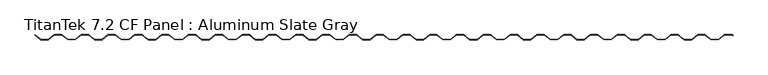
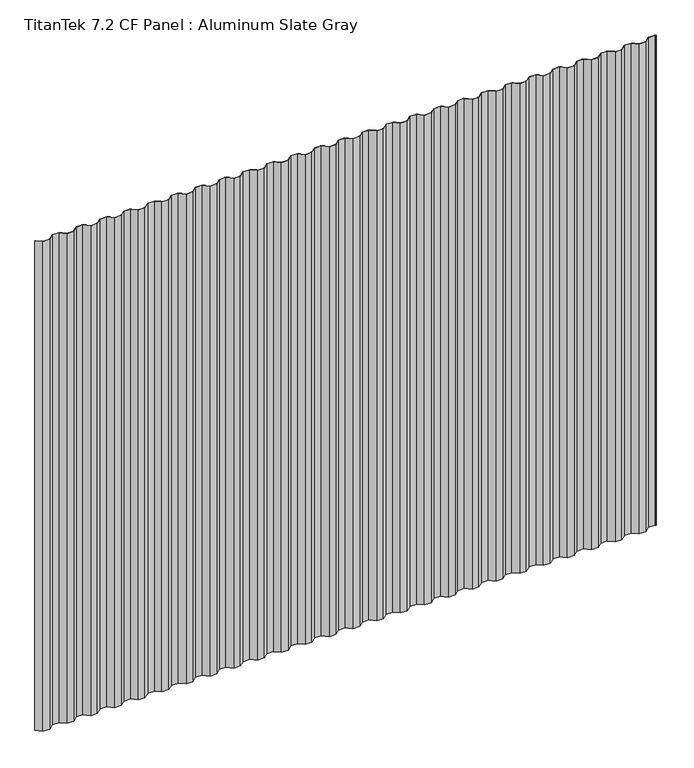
"""IFC4 building model written with IfcOpenShell, lengths in millimetres: proxy geometry, TitanTek 7.2 CF Panel : Aluminum Slate Gray."""

from ifc_helpers import new_model, si_unit, origin, origin_with_axes, place, context, project, spatial, polyline, outline, extrude, source, transform, mapped, element, save


def titantek_7_2_cf_panel_aluminum_slate_gray_eb07de06(model_context):
    return source(origin(), model_context, "Body", "SweptSolid", [
        extrude(outline(polyline([(4788.0708712, 0.0), (4795.5415294, -6.2686265), (4793.9979597, -6.2686265), (4787.7097445, -0.9921875), (4736.4377418, -0.9921875), (4696.363469, -34.9011875), (4642.4261562, -34.9011875), (4602.1884807, -0.9921875), (4552.1142446, -0.9921875), (4510.8673867, -35.893375), (4459.4597903, -35.893375), (4417.8661747, -0.9921875), (4419.4097445, -0.9921875), (4459.8209171, -34.9011875), (4510.5039406, -34.9011875), (4551.7507986, 0.0), (4602.5507986, 0.0), (4642.788474, -33.909), (4696.000023, -33.909), (4736.0742957, 0.0), (4788.0708712, 0.0)])), origin_with_axes(), (0.0, 0.0, 1.0), 4000.0),
        extrude(outline(polyline([(4419.7708712, 0.0), (4427.2415294, -6.2686265), (4425.6979597, -6.2686265), (4419.4097445, -0.9921875), (4368.1377418, -0.9921875), (4328.063469, -34.9011875), (4274.1261562, -34.9011875), (4233.8884807, -0.9921875), (4183.8142446, -0.9921875), (4142.5673867, -35.893375), (4091.1597903, -35.893375), (4049.5661747, -0.9921875), (4051.1097445, -0.9921875), (4091.5209171, -34.9011875), (4142.2039406, -34.9011875), (4183.4507986, 0.0), (4234.2507986, 0.0), (4274.488474, -33.909), (4327.700023, -33.909), (4367.7742957, 0.0), (4419.7708712, 0.0)])), origin_with_axes(), (0.0, 0.0, 1.0), 4000.0),
        extrude(outline(polyline([(4051.4708712, 0.0), (4058.9415294, -6.2686265), (4057.3979597, -6.2686265), (4051.1097445, -0.9921875), (3999.8377418, -0.9921875), (3959.763469, -34.9011875), (3905.8261562, -34.9011875), (3865.5884807, -0.9921875), (3815.5142446, -0.9921875), (3774.2673867, -35.893375), (3722.8597903, -35.893375), (3681.2661747, -0.9921875), (3682.8097445, -0.9921875), (3723.2209171, -34.9011875), (3773.9039406, -34.9011875), (3815.1507986, 0.0), (3865.9507986, 0.0), (3906.188474, -33.909), (3959.400023, -33.909), (3999.4742957, 0.0), (4051.4708712, 0.0)])), origin_with_axes(), (0.0, 0.0, 1.0), 4000.0),
        extrude(outline(polyline([(3683.1708712, 0.0), (3690.6415294, -6.2686265), (3689.0979597, -6.2686265), (3682.8097445, -0.9921875), (3631.5377418, -0.9921875), (3591.463469, -34.9011875), (3537.5261562, -34.9011875), (3497.2884807, -0.9921875), (3447.2142446, -0.9921875), (3405.9673867, -35.893375), (3354.5597903, -35.893375), (3312.9661747, -0.9921875), (3314.5097445, -0.9921875), (3354.9209171, -34.9011875), (3405.6039406, -34.9011875), (3446.8507986, 0.0), (3497.6507986, 0.0), (3537.888474, -33.909), (3591.100023, -33.909), (3631.1742957, 0.0), (3683.1708712, 0.0)])), origin_with_axes(), (0.0, 0.0, 1.0), 4000.0),
        extrude(outline(polyline([(3314.8708712, 0.0), (3322.3415294, -6.2686265), (3320.7979597, -6.2686265), (3314.5097445, -0.9921875), (3263.2377418, -0.9921875), (3223.163469, -34.9011875), (3169.2261562, -34.9011875), (3128.9884807, -0.9921875), (3078.9142446, -0.9921875), (3037.6673867, -35.893375), (2986.2597903, -35.893375), (2944.6661747, -0.9921875), (2946.2097445, -0.9921875), (2986.6209171, -34.9011875), (3037.3039406, -34.9011875), (3078.5507986, 0.0), (3129.3507986, 0.0), (3169.588474, -33.909), (3222.800023, -33.909), (3262.8742957, 0.0), (3314.8708712, 0.0)])), origin_with_axes(), (0.0, 0.0, 1.0), 4000.0),
        extrude(outline(polyline([(2946.5708712, 0.0), (2954.0415294, -6.2686265), (2952.4979597, -6.2686265), (2946.2097445, -0.9921875), (2894.9377418, -0.9921875), (2854.863469, -34.9011875), (2800.9261562, -34.9011875), (2760.6884807, -0.9921875), (2710.6142446, -0.9921875), (2669.3673867, -35.893375), (2617.9597903, -35.893375), (2576.3661747, -0.9921875), (2577.9097445, -0.9921875), (2618.3209171, -34.9011875), (2669.0039406, -34.9011875), (2710.2507986, 0.0), (2761.0507986, 0.0), (2801.288474, -33.909), (2854.500023, -33.909), (2894.5742957, 0.0), (2946.5708712, 0.0)])), origin_with_axes(), (0.0, 0.0, 1.0), 4000.0),
        extrude(outline(polyline([(2578.2708712, 0.0), (2585.7415294, -6.2686265), (2584.1979597, -6.2686265), (2577.9097445, -0.9921875), (2526.6377418, -0.9921875), (2486.563469, -34.9011875), (2432.6261562, -34.9011875), (2392.3884807, -0.9921875), (2342.3142446, -0.9921875), (2301.0673867, -35.893375), (2249.6597903, -35.893375), (2208.0661747, -0.9921875), (2209.6097445, -0.9921875), (2250.0209171, -34.9011875), (2300.7039406, -34.9011875), (2341.9507986, 0.0), (2392.7507986, 0.0), (2432.988474, -33.909), (2486.200023, -33.909), (2526.2742957, 0.0), (2578.2708712, 0.0)])), origin_with_axes(), (0.0, 0.0, 1.0), 4000.0),
        extrude(outline(polyline([(2209.9708712, 0.0), (2217.4415294, -6.2686265), (2215.8979597, -6.2686265), (2209.6097445, -0.9921875), (2158.3377418, -0.9921875), (2118.263469, -34.9011875), (2064.3261562, -34.9011875), (2024.0884807, -0.9921875), (1974.0142446, -0.9921875), (1932.7673867, -35.893375), (1881.3597903, -35.893375), (1839.7661747, -0.9921875), (1841.3097445, -0.9921875), (1881.7209171, -34.9011875), (1932.4039406, -34.9011875), (1973.6507986, 0.0), (2024.4507986, 0.0), (2064.688474, -33.909), (2117.900023, -33.909), (2157.9742957, 0.0), (2209.9708712, 0.0)])), origin_with_axes(), (0.0, 0.0, 1.0), 4000.0),
        extrude(outline(polyline([(1841.6708712, 0.0), (1849.1415294, -6.2686265), (1847.5979597, -6.2686265), (1841.3097445, -0.9921875), (1790.0377418, -0.9921875), (1749.963469, -34.9011875), (1696.0261562, -34.9011875), (1655.7884807, -0.9921875), (1605.7142446, -0.9921875), (1564.4673867, -35.893375), (1513.0597903, -35.893375), (1471.4661747, -0.9921875), (1473.0097445, -0.9921875), (1513.4209171, -34.9011875), (1564.1039406, -34.9011875), (1605.3507986, 0.0), (1656.1507986, 0.0), (1696.388474, -33.909), (1749.600023, -33.909), (1789.6742957, 0.0), (1841.6708712, 0.0)])), origin_with_axes(), (0.0, 0.0, 1.0), 4000.0),
        extrude(outline(polyline([(1473.3708712, 0.0), (1480.8415294, -6.2686265), (1479.2979597, -6.2686265), (1473.0097445, -0.9921875), (1421.7377418, -0.9921875), (1381.663469, -34.9011875), (1327.7261562, -34.9011875), (1287.4884807, -0.9921875), (1237.4142446, -0.9921875), (1196.1673867, -35.893375), (1144.7597903, -35.893375), (1103.1661747, -0.9921875), (1104.7097445, -0.9921875), (1145.1209171, -34.9011875), (1195.8039406, -34.9011875), (1237.0507986, 0.0), (1287.8507986, 0.0), (1328.088474, -33.909), (1381.300023, -33.909), (1421.3742957, 0.0), (1473.3708712, 0.0)])), origin_with_axes(), (0.0, 0.0, 1.0), 4000.0),
        extrude(outline(polyline([(1105.0708712, 0.0), (1112.5415294, -6.2686265), (1110.9979597, -6.2686265), (1104.7097445, -0.9921875), (1053.4377418, -0.9921875), (1013.363469, -34.9011875), (959.4261562, -34.9011875), (919.1884807, -0.9921875), (869.1142446, -0.9921875), (827.8673867, -35.893375), (776.4597903, -35.893375), (734.8661747, -0.9921875), (736.4097445, -0.9921875), (776.8209171, -34.9011875), (827.5039406, -34.9011875), (868.7507986, 0.0), (919.5507986, 0.0), (959.788474, -33.909), (1013.000023, -33.909), (1053.0742957, 0.0), (1105.0708712, 0.0)])), origin_with_axes(), (0.0, 0.0, 1.0), 4000.0),
        extrude(outline(polyline([(736.7708712, 0.0), (744.2415294, -6.2686265), (742.6979597, -6.2686265), (736.4097445, -0.9921875), (685.1377418, -0.9921875), (645.063469, -34.9011875), (591.1261562, -34.9011875), (550.8884807, -0.9921875), (500.8142446, -0.9921875), (459.5673867, -35.893375), (408.1597903, -35.893375), (366.5661747, -0.9921875), (368.1097445, -0.9921875), (408.5209171, -34.9011875), (459.2039406, -34.9011875), (500.4507986, 0.0), (551.2507986, 0.0), (591.488474, -33.909), (644.700023, -33.909), (684.7742957, 0.0), (736.7708712, 0.0)])), origin_with_axes(), (0.0, 0.0, 1.0), 4000.0),
        extrude(outline(polyline([(368.4708712, 0.0), (375.9415294, -6.2686265), (374.3979597, -6.2686265), (368.1097445, -0.9921875), (316.8377418, -0.9921875), (276.763469, -34.9011875), (222.8261562, -34.9011875), (182.5884807, -0.9921875), (132.5142446, -0.9921875), (91.2673867, -35.893375), (39.8597903, -35.893375), (-1.7338253, -0.9921875), (-0.1902555, -0.9921875), (40.2209171, -34.9011875), (90.9039406, -34.9011875), (132.1507986, 0.0), (182.9507986, 0.0), (223.188474, -33.909), (276.400023, -33.909), (316.4742957, 0.0), (368.4708712, 0.0)])), origin_with_axes(), (0.0, 0.0, 1.0), 4000.0),
    ])


if __name__ == "__main__":
    model = new_model("IFC4")
    model_context = context("Model", 3, world=origin())
    ifc_project = project(units=[si_unit("LENGTHUNIT", "METRE", prefix="MILLI")], contexts=[model_context])
    site = spatial("IfcSite", under=ifc_project)
    building = spatial("IfcBuilding", under=site)
    placement = place(None, origin())
    titantek_7_2_cf_panel_aluminum_slate_gray_shape = titantek_7_2_cf_panel_aluminum_slate_gray_eb07de06(model_context)
    element("IfcBuildingElementProxy", 1, Name="TitanTek 7.2 CF Panel : Aluminum Slate Gray", ObjectType="TitanTek 7.2 CF Panel : Aluminum Slate Gray", at=placement, inside=building, context=model_context, shape_type="MappedRepresentation", body=[
        mapped(titantek_7_2_cf_panel_aluminum_slate_gray_shape, transform((0.0, 0.0, 0.0), x_axis=(1.0, 0.0, 0.0), y_axis=(0.0, 1.0, 0.0), z_axis=(0.0, 0.0, 1.0))),
    ])
    save(model, "model.ifc")
